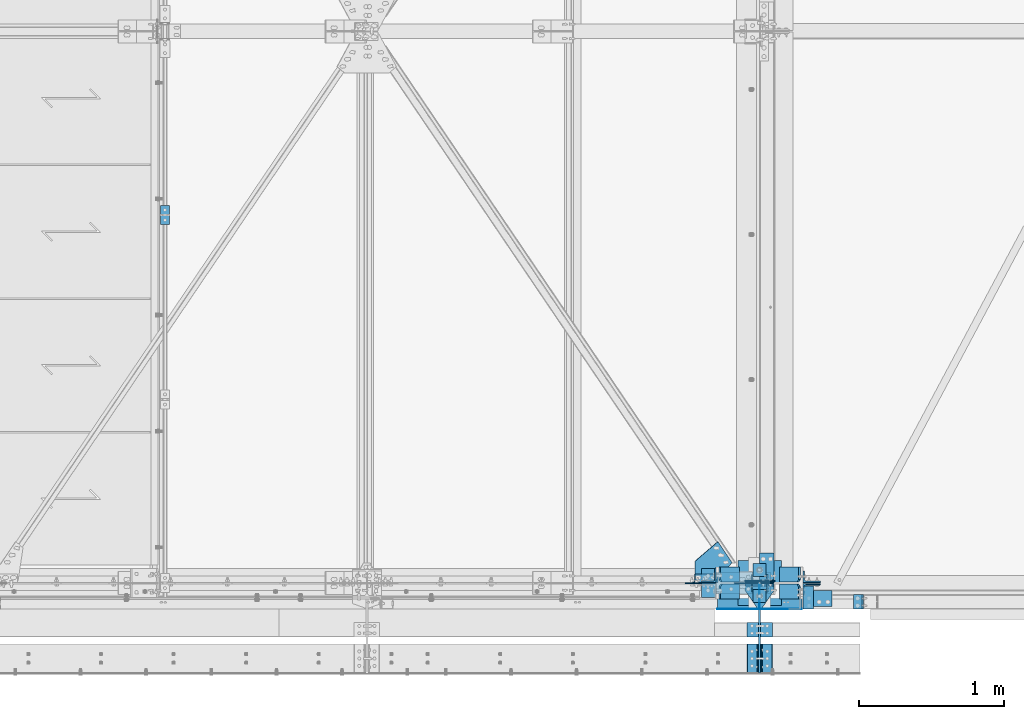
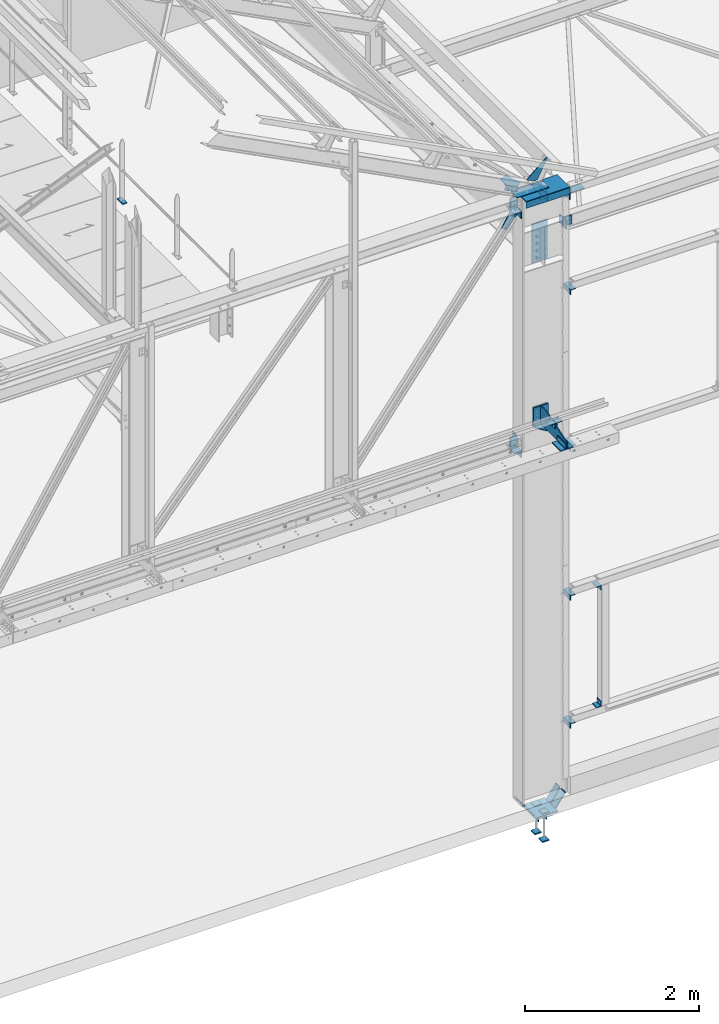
# One storey, part 87 of 362: 35 beams, 7 members, 28 elements without a shape of their own.
"""IFC2X3 building model written with IfcOpenShell, lengths in millimetres."""

from ifc_helpers import new_model, si_unit, frame, origin_with_axes, origin_2d_with_axis, place, context, subcontext, project, spatial, polyline, rectangle, i_section, l_section, outline, extrude, boolean, material, type_object, element, aggregate, save


model = new_model("IFC2X3")

# Units and contexts
model_context = context("Model", 3, precision=1e-05, world=origin_with_axes())
body_context = subcontext(model_context, "Body", "Model", "MODEL_VIEW")
ifc_project = project(units=[si_unit("LENGTHUNIT", "METRE", prefix="MILLI"), si_unit("AREAUNIT", "SQUARE_METRE"), si_unit("VOLUMEUNIT", "CUBIC_METRE"), si_unit("MASSUNIT", "GRAM", prefix="KILO"), si_unit("TIMEUNIT", "SECOND"), si_unit("PLANEANGLEUNIT", "RADIAN"), si_unit("SOLIDANGLEUNIT", "STERADIAN"), si_unit("THERMODYNAMICTEMPERATUREUNIT", "DEGREE_CELSIUS"), si_unit("LUMINOUSINTENSITYUNIT", "LUMEN")], contexts=[model_context])

# Site, building, storey
site_placement = place(None, origin_with_axes())
site = spatial("IfcSite", under=ifc_project, at=site_placement, Name="Undefined", CompositionType="ELEMENT")
building_placement = place(site_placement, origin_with_axes())
building = spatial("IfcBuilding", under=site, at=building_placement, Name="Undefined", CompositionType="ELEMENT")
storey_placement = place(building_placement, origin_with_axes())
storey = spatial("IfcBuildingStorey", under=building, at=storey_placement, Name="Undefined", CompositionType="ELEMENT", Elevation=0.0)

# Assembly, beam
assembly_1_placement = place(storey_placement, origin_with_axes())
assembly_1 = element("IfcElementAssembly", 1, at=assembly_1_placement, inside=storey, Name="MAIN COURANTE", AssemblyPlace="NOTDEFINED", PredefinedType="NOTDEFINED")
ifc_material_1 = material(Name="Undefined/S235-E24")
beam_type_1 = type_object("IfcBeamType", Name="PL10*60", PredefinedType="NOTDEFINED")
beam_1_placement = place(assembly_1_placement, frame((24783.9915997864, 2600.00343957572, 8245.00000732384), z_axis=(-1.0, 0.0, 0.0), x_axis=(0.0, -1.0, 0.0)))
beam_1 = element("IfcBeam", 2, at=beam_1_placement, type_object=beam_type_1, material=ifc_material_1, Name="PLATINE", ObjectType="PL10*60", context=body_context, shape_type="SweptSolid", body=[
    extrude(rectangle(XDim=10.0, YDim=60.0, at=origin_2d_with_axis()), frame((130.0, 0.0, 0.0), z_axis=(-1.0, 0.0, 0.0), x_axis=(0.0, -1.0, 0.0)), (0.0, 0.0, 1.0), 130.0),
])
aggregate(assembly_1, [beam_1])

assembly_2_placement = place(storey_placement, origin_with_axes())
assembly_2 = element("IfcElementAssembly", 3, at=assembly_2_placement, inside=storey, Name="CONTRE PLATINE", AssemblyPlace="NOTDEFINED", PredefinedType="NOTDEFINED")
beam_type_2 = type_object("IfcBeamType", Name="PL10*200", PredefinedType="NOTDEFINED")
beam_2_placement = place(assembly_2_placement, frame((28880.0, 11.0084493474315, 5479.99824538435), z_axis=(1.0, 0.0, 0.0), x_axis=(0.0, 0.0, -1.0)))
beam_2 = element("IfcBeam", 4, at=beam_2_placement, type_object=beam_type_2, material=ifc_material_1, Name="CONTRE PLATINE", ObjectType="PL10*200", context=body_context, shape_type="SweptSolid", body=[
    extrude(rectangle(XDim=10.0, YDim=200.0, at=origin_2d_with_axis()), frame((264.997552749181, 0.0, 0.0), z_axis=(-1.0, 0.0, 0.0), x_axis=(0.0, -1.0, 0.0)), (0.0, 0.0, 1.0), 265.0),
])
aggregate(assembly_2, [beam_2])

assembly_3_placement = place(storey_placement, origin_with_axes())
assembly_3 = element("IfcElementAssembly", 5, at=assembly_3_placement, inside=storey, AssemblyPlace="NOTDEFINED", PredefinedType="NOTDEFINED")
beam_type_3 = type_object("IfcBeamType", Name="L80*8", PredefinedType="NOTDEFINED")
beam_3_placement = place(assembly_3_placement, frame((28927.4921676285, -270.0, 5409.99824538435), z_axis=(0.0, 0.0, -1.0), x_axis=(0.0, -1.0, 0.0)))
beam_3 = element("IfcBeam", 6, at=beam_3_placement, type_object=beam_type_3, material=ifc_material_1, Name="ATTACHE", ObjectType="L80*8", context=body_context, shape_type="SweptSolid", body=[
    extrude(l_section(Depth=80.0, Width=80.0, Thickness=8.0, FilletRadius=10.0, EdgeRadius=5.0, at=origin_2d_with_axis()), frame((99.9999999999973, -1.63709046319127e-11, 7.73070496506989e-12), z_axis=(-1.0, 0.0, 0.0), x_axis=(0.0, -1.0, 0.0)), (0.0, 0.0, 1.0), 100.0),
])
aggregate(assembly_3, [beam_3])

assembly_4_placement = place(storey_placement, origin_with_axes())
assembly_4 = element("IfcElementAssembly", 7, at=assembly_4_placement, inside=storey, AssemblyPlace="NOTDEFINED", PredefinedType="NOTDEFINED")
beam_4_placement = place(assembly_4_placement, frame((28832.5, -370.0, 5409.99824538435), z_axis=(0.0, 0.0, -1.0), x_axis=(0.0, 1.0, 0.0)))
beam_4 = element("IfcBeam", 8, at=beam_4_placement, type_object=beam_type_3, material=ifc_material_1, Name="ATTACHE", ObjectType="L80*8", context=body_context, shape_type="SweptSolid", body=[
    extrude(l_section(Depth=80.0, Width=80.0, Thickness=8.0, FilletRadius=10.0, EdgeRadius=5.0, at=origin_2d_with_axis()), frame((99.9999999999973, -1.63709046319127e-11, 7.73070496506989e-12), z_axis=(-1.0, 0.0, 0.0), x_axis=(0.0, -1.0, 0.0)), (0.0, 0.0, 1.0), 100.0),
])
aggregate(assembly_4, [beam_4])

assembly_5_placement = place(storey_placement, origin_with_axes())
assembly_5 = element("IfcElementAssembly", 9, at=assembly_5_placement, inside=storey, AssemblyPlace="NOTDEFINED", PredefinedType="NOTDEFINED")
beam_5_placement = place(assembly_5_placement, frame((28927.4921676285, -620.0, 5269.99824538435), z_axis=(0.0, 0.0, 1.0), x_axis=(0.0, 1.0, 0.0)))
beam_5 = element("IfcBeam", 10, at=beam_5_placement, type_object=beam_type_3, material=ifc_material_1, Name="ATTACHE", ObjectType="L80*8", context=body_context, shape_type="SweptSolid", body=[
    extrude(l_section(Depth=80.0, Width=80.0, Thickness=8.0, FilletRadius=10.0, EdgeRadius=5.0, at=origin_2d_with_axis()), frame((200.0, 0.0, 0.0), z_axis=(-1.0, 0.0, 0.0), x_axis=(0.0, -1.0, 0.0)), (0.0, 0.0, 1.0), 200.0),
])
aggregate(assembly_5, [beam_5])

assembly_6_placement = place(storey_placement, origin_with_axes())
assembly_6 = element("IfcElementAssembly", 11, at=assembly_6_placement, inside=storey, AssemblyPlace="NOTDEFINED", PredefinedType="NOTDEFINED")
beam_6_placement = place(assembly_6_placement, frame((28832.5, -420.0, 5269.99824538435), z_axis=(0.0, 0.0, 1.0), x_axis=(0.0, -1.0, 0.0)))
beam_6 = element("IfcBeam", 12, at=beam_6_placement, type_object=beam_type_3, material=ifc_material_1, Name="ATTACHE", ObjectType="L80*8", context=body_context, shape_type="SweptSolid", body=[
    extrude(l_section(Depth=80.0, Width=80.0, Thickness=8.0, FilletRadius=10.0, EdgeRadius=5.0, at=origin_2d_with_axis()), frame((200.0, 0.0, 0.0), z_axis=(-1.0, 0.0, 0.0), x_axis=(0.0, -1.0, 0.0)), (0.0, 0.0, 1.0), 200.0),
])
aggregate(assembly_6, [beam_6])

# Assembly, beams
assembly_7_placement = place(storey_placement, origin_with_axes())
assembly_7 = element("IfcElementAssembly", 13, at=assembly_7_placement, inside=storey, Name="CONSOLE", AssemblyPlace="NOTDEFINED", PredefinedType="NOTDEFINED")
beam_type_4 = type_object("IfcBeamType", Name="TOLE10*149", PredefinedType="NOTDEFINED")
beam_7_placement = place(assembly_7_placement, frame((28780.0, -20.9999999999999, 5224.99824534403), z_axis=(0.0, 0.0, 1.0), x_axis=(0.0, -1.0, 0.0)))
beam_7 = element("IfcBeam", 14, at=beam_7_placement, type_object=beam_type_4, material=ifc_material_1, Name="RAIDISSEUR", ObjectType="TOLE10*149", context=body_context, shape_type="SweptSolid", body=[
    extrude(outline(polyline([(0.0, 0.0), (30.0, 0.0), (149.0, 82.5), (149.0, 117.5), (30.0, 200.0), (0.0, 200.0), (0.0, 0.0)])), frame((0.0, 0.0, -5.0), z_axis=(0.0, 0.0, 1.0), x_axis=(1.0, 0.0, 0.0)), (0.0, 0.0, 1.0), 10.0),
])
beam_type_5 = type_object("IfcBeamType", Name="PL15*200", PredefinedType="NOTDEFINED")
beam_8_placement = place(assembly_7_placement, frame((28880.0, -13.4999999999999, 5479.99824538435), z_axis=(1.0, 0.0, 0.0), x_axis=(0.0, 0.0, -1.0)))
beam_8 = element("IfcBeam", 15, at=beam_8_placement, type_object=beam_type_5, material=ifc_material_1, Name="PLATINE", ObjectType="PL15*200", context=body_context, shape_type="SweptSolid", body=[
    extrude(rectangle(XDim=15.0, YDim=200.0, at=origin_2d_with_axis()), frame((264.997552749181, 0.0, 0.0), z_axis=(-1.0, 0.0, 0.0), x_axis=(0.0, -1.0, 0.0)), (0.0, 0.0, 1.0), 265.0),
])
beam_type_6 = type_object("IfcBeamType", Name="TOLE15*250", PredefinedType="NOTDEFINED")
beam_9_placement = place(assembly_7_placement, frame((28880.0, -620.0, 5229.99824538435), z_axis=(-1.0, 0.0, 0.0), x_axis=(0.0, 0.0, 1.0)))
beam_9 = element("IfcBeam", 16, at=beam_9_placement, type_object=beam_type_6, material=ifc_material_1, Name="CONSOLE", ObjectType="TOLE15*250", context=body_context, shape_type="SweptSolid", body=[
    extrude(outline(polyline([(0.0, 0.0), (100.0, 0.0), (250.0, 450.0), (250.0, 599.0), (19.9999999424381, 599.0), (-5.56399857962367e-08, 579.0), (0.0, 0.0)])), frame((0.0, 0.0, -7.5), z_axis=(0.0, 0.0, 1.0), x_axis=(1.0, 0.0, 0.0)), (0.0, 0.0, 1.0), 15.0),
])
aggregate(assembly_7, [beam_7, beam_8, beam_9])

# Assembly, beam
assembly_8_placement = place(storey_placement, origin_with_axes())
assembly_8 = element("IfcElementAssembly", 17, at=assembly_8_placement, inside=storey, AssemblyPlace="NOTDEFINED", PredefinedType="NOTDEFINED")
beam_type_7 = type_object("IfcBeamType", Name="L70*7", PredefinedType="NOTDEFINED")
beam_10_placement = place(assembly_8_placement, frame((29215.0012714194, -20.0000002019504, 964.996098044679), z_axis=(0.0, 0.0, -1.0), x_axis=(0.0, -1.0, 0.0)))
beam_10 = element("IfcBeam", 18, at=beam_10_placement, type_object=beam_type_7, material=ifc_material_1, Name="ATTACHE", ObjectType="L70*7", context=body_context, shape_type="SweptSolid", body=[
    extrude(l_section(Depth=70.0, Width=70.0, Thickness=7.0, FilletRadius=9.0, EdgeRadius=4.5, at=origin_2d_with_axis()), frame((160.000008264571, 0.0, 0.0), z_axis=(-1.0, 0.0, 0.0), x_axis=(0.0, -1.0, 0.0)), (0.0, 0.0, 1.0), 160.0),
])
aggregate(assembly_8, [beam_10])

assembly_9_placement = place(storey_placement, origin_with_axes())
assembly_9 = element("IfcElementAssembly", 19, at=assembly_9_placement, inside=storey, AssemblyPlace="NOTDEFINED", PredefinedType="NOTDEFINED")
beam_11_placement = place(assembly_9_placement, frame((29215.0012287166, -20.0000002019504, 7064.99609804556), z_axis=(0.0, 0.0, -1.0), x_axis=(0.0, -1.0, 0.0)))
beam_11 = element("IfcBeam", 20, at=beam_11_placement, type_object=beam_type_7, material=ifc_material_1, Name="ATTACHE", ObjectType="L70*7", context=body_context, shape_type="SweptSolid", body=[
    extrude(l_section(Depth=70.0, Width=70.0, Thickness=7.0, FilletRadius=9.0, EdgeRadius=4.5, at=origin_2d_with_axis()), frame((160.000008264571, 0.0, 0.0), z_axis=(-1.0, 0.0, 0.0), x_axis=(0.0, -1.0, 0.0)), (0.0, 0.0, 1.0), 160.0),
])
aggregate(assembly_9, [beam_11])

assembly_10_placement = place(storey_placement, origin_with_axes())
assembly_10 = element("IfcElementAssembly", 21, at=assembly_10_placement, inside=storey, AssemblyPlace="NOTDEFINED", PredefinedType="NOTDEFINED")
beam_12_placement = place(assembly_10_placement, frame((29215.0012588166, -20.0000002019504, 2764.99609804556), z_axis=(0.0, 0.0, -1.0), x_axis=(0.0, -1.0, 0.0)))
beam_12 = element("IfcBeam", 22, at=beam_12_placement, type_object=beam_type_7, material=ifc_material_1, Name="ATTACHE", ObjectType="L70*7", context=body_context, shape_type="SweptSolid", body=[
    extrude(l_section(Depth=70.0, Width=70.0, Thickness=7.0, FilletRadius=9.0, EdgeRadius=4.5, at=origin_2d_with_axis()), frame((160.000008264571, 0.0, 0.0), z_axis=(-1.0, 0.0, 0.0), x_axis=(0.0, -1.0, 0.0)), (0.0, 0.0, 1.0), 160.0),
])
aggregate(assembly_10, [beam_12])

assembly_11_placement = place(storey_placement, origin_with_axes())
assembly_11 = element("IfcElementAssembly", 23, at=assembly_11_placement, inside=storey, AssemblyPlace="NOTDEFINED", PredefinedType="NOTDEFINED")
beam_13_placement = place(assembly_11_placement, frame((29215.0012588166, -20.0000002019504, 4864.99609804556), z_axis=(0.0, 0.0, -1.0), x_axis=(0.0, -1.0, 0.0)))
beam_13 = element("IfcBeam", 24, at=beam_13_placement, type_object=beam_type_7, material=ifc_material_1, Name="ATTACHE", ObjectType="L70*7", context=body_context, shape_type="SweptSolid", body=[
    extrude(l_section(Depth=70.0, Width=70.0, Thickness=7.0, FilletRadius=9.0, EdgeRadius=4.5, at=origin_2d_with_axis()), frame((160.000008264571, 0.0, 0.0), z_axis=(-1.0, 0.0, 0.0), x_axis=(0.0, -1.0, 0.0)), (0.0, 0.0, 1.0), 160.0),
])
aggregate(assembly_11, [beam_13])

assembly_12_placement = place(storey_placement, origin_with_axes())
assembly_12 = element("IfcElementAssembly", 25, at=assembly_12_placement, inside=storey, AssemblyPlace="NOTDEFINED", PredefinedType="NOTDEFINED")
beam_14_placement = place(assembly_12_placement, frame((29559.999999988, -80.0000086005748, 1135.0), z_axis=(0.0, 0.0, 1.0), x_axis=(0.0, -1.0, 0.0)))
beam_14 = element("IfcBeam", 26, at=beam_14_placement, type_object=beam_type_7, material=ifc_material_1, Name="ATTACHE", ObjectType="L70*7", context=body_context, shape_type="SweptSolid", body=[
    extrude(l_section(Depth=70.0, Width=70.0, Thickness=7.0, FilletRadius=9.0, EdgeRadius=4.5, at=origin_2d_with_axis()), frame((99.9999999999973, -1.63709046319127e-11, 7.73070496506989e-12), z_axis=(-1.0, 0.0, 0.0), x_axis=(0.0, -1.0, 0.0)), (0.0, 0.0, 1.0), 100.0),
])
aggregate(assembly_12, [beam_14])

assembly_13_placement = place(storey_placement, origin_with_axes())
assembly_13 = element("IfcElementAssembly", 27, at=assembly_13_placement, inside=storey, AssemblyPlace="NOTDEFINED", PredefinedType="NOTDEFINED")
beam_15_placement = place(assembly_13_placement, frame((29560.000000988, -180.000008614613, 2765.0), z_axis=(0.0, 0.0, -1.0), x_axis=(0.0, 1.0, 0.0)))
beam_15 = element("IfcBeam", 28, at=beam_15_placement, type_object=beam_type_7, material=ifc_material_1, Name="ATTACHE", ObjectType="L70*7", context=body_context, shape_type="SweptSolid", body=[
    extrude(l_section(Depth=70.0, Width=70.0, Thickness=7.0, FilletRadius=9.0, EdgeRadius=4.5, at=origin_2d_with_axis()), frame((99.9999999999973, -1.63709046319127e-11, 7.73070496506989e-12), z_axis=(-1.0, 0.0, 0.0), x_axis=(0.0, -1.0, 0.0)), (0.0, 0.0, 1.0), 100.0),
])
aggregate(assembly_13, [beam_15])

# Assembly, member
assembly_14_placement = place(storey_placement, origin_with_axes())
assembly_14 = element("IfcElementAssembly", 29, at=assembly_14_placement, inside=storey, AssemblyPlace="NOTDEFINED", PredefinedType="NOTDEFINED")
member_type_1 = type_object("IfcMemberType", Name="L60*6", PredefinedType="NOTDEFINED")
member_1_placement = place(assembly_14_placement, frame((28579.3252498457, 33.0001377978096, 8604.45371099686), z_axis=(0.0, 1.0, 0.0), x_axis=(-0.887870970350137, -2.80000019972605e-08, 0.460092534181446)))
member_1 = element("IfcMember", 30, at=member_1_placement, type_object=member_type_1, material=ifc_material_1, Name="ATTACHE", ObjectType="L60*6", context=body_context, shape_type="SweptSolid", body=[
    extrude(l_section(Depth=60.0, Width=60.0, Thickness=6.0, FilletRadius=8.0, EdgeRadius=4.0, at=origin_2d_with_axis()), frame((180.0, 0.0, 0.0), z_axis=(-1.0, 0.0, 0.0), x_axis=(0.0, -1.0, 0.0)), (0.0, 0.0, 1.0), 180.0),
])
aggregate(assembly_14, [member_1])

# Assembly, beam
assembly_15_placement = place(storey_placement, origin_with_axes())
assembly_15 = element("IfcElementAssembly", 31, at=assembly_15_placement, inside=storey, Name="PANNE SHED", AssemblyPlace="NOTDEFINED", PredefinedType="NOTDEFINED")
beam_type_8 = type_object("IfcBeamType", Name="TOLE8*140", PredefinedType="NOTDEFINED")
beam_16_placement = place(assembly_15_placement, frame((28714.4895719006, 0.0, 8721.3758937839), z_axis=(0.0, -1.0, 0.0), x_axis=(-0.460093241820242, 0.0, -0.887870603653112)))
beam_16 = element("IfcBeam", 32, at=beam_16_placement, type_object=beam_type_8, material=ifc_material_1, Name="RAIDISSEUR", ObjectType="TOLE8*140", context=body_context, shape_type="SweptSolid", body=[
    extrude(outline(polyline([(0.0, 0.0), (19.9999999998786, -3.63797880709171e-12), (20.0000000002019, 109.999999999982), (-9.99999999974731, 139.99998998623), (-300.0000000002, 139.999893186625), (-300.000000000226, 119.999893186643), (0.0, 0.0)])), frame((0.0, 0.0, -4.0), z_axis=(0.0, 0.0, 1.0), x_axis=(1.0, 0.0, 0.0)), (0.0, 0.0, 1.0), 8.0),
])
aggregate(assembly_15, [beam_16])

assembly_16_placement = place(storey_placement, origin_with_axes())
assembly_16 = element("IfcElementAssembly", 33, at=assembly_16_placement, inside=storey, AssemblyPlace="NOTDEFINED", PredefinedType="NOTDEFINED")
beam_type_9 = type_object("IfcBeamType", Name="L200*100*10", PredefinedType="NOTDEFINED")
beam_17_placement = place(assembly_16_placement, frame((29280.0031155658, -159.989858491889, 8399.99872306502), z_axis=(0.999999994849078, 0.000101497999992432, 0.0), x_axis=(-0.000101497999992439, 0.999999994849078, 0.0)))
beam_17 = element("IfcBeam", 34, at=beam_17_placement, type_object=beam_type_9, material=ifc_material_1, Name="ATTACHE", ObjectType="L200*100*10", context=body_context, shape_type="SweptSolid", body=[
    extrude(l_section(Depth=200.0, Width=100.0, Thickness=10.0, FilletRadius=15.0, EdgeRadius=7.5, at=origin_2d_with_axis()), frame((109.999999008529, 1.81898940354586e-12, 0.0), z_axis=(-1.0, 0.0, 0.0), x_axis=(0.0, -1.0, 0.0)), (0.0, 0.0, 1.0), 110.0),
])
aggregate(assembly_16, [beam_17])

assembly_17_placement = place(storey_placement, origin_with_axes())
assembly_17 = element("IfcElementAssembly", 35, at=assembly_17_placement, inside=storey, AssemblyPlace="NOTDEFINED", PredefinedType="NOTDEFINED")
beam_18_placement = place(assembly_17_placement, frame((28980.0, 106.0, 8400.0), z_axis=(0.0, 1.0, 0.0), x_axis=(-1.0, 0.0, 0.0)))
beam_18 = element("IfcBeam", 36, at=beam_18_placement, type_object=beam_type_9, material=ifc_material_1, Name="ATTACHE", ObjectType="L200*100*10", context=body_context, shape_type="SweptSolid", body=[
    extrude(l_section(Depth=200.0, Width=100.0, Thickness=10.0, FilletRadius=15.0, EdgeRadius=7.5, at=origin_2d_with_axis()), frame((99.9999999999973, -1.63709046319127e-11, 7.73070496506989e-12), z_axis=(-1.0, 0.0, 0.0), x_axis=(0.0, -1.0, 0.0)), (0.0, 0.0, 1.0), 100.0),
])
aggregate(assembly_17, [beam_18])

assembly_18_placement = place(storey_placement, origin_with_axes())
assembly_18 = element("IfcElementAssembly", 37, at=assembly_18_placement, inside=storey, Name="TRAVERSE", AssemblyPlace="NOTDEFINED", PredefinedType="NOTDEFINED")
beam_type_10 = type_object("IfcBeamType", Name="PL15*210", PredefinedType="NOTDEFINED")
beam_19_placement = place(assembly_18_placement, frame((28880.0, 13.5, 8049.34004841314), z_axis=(-1.0, 0.0, 0.0), x_axis=(0.0, 0.0, -1.0)))
beam_19 = element("IfcBeam", 38, at=beam_19_placement, type_object=beam_type_10, material=ifc_material_1, Name="PLATINE", ObjectType="PL15*210", context=body_context, shape_type="SweptSolid", body=[
    extrude(rectangle(XDim=15.0, YDim=210.0, at=origin_2d_with_axis()), frame((550.0, 0.0, 0.0), z_axis=(-1.0, 0.0, 0.0), x_axis=(0.0, -1.0, 0.0)), (0.0, 0.0, 1.0), 550.0),
])
aggregate(assembly_18, [beam_19])

assembly_19_placement = place(storey_placement, origin_with_axes())
assembly_19 = element("IfcElementAssembly", 39, at=assembly_19_placement, inside=storey, AssemblyPlace="NOTDEFINED", PredefinedType="NOTDEFINED")
beam_type_11 = type_object("IfcBeamType", Name="TOLE6*219", PredefinedType="NOTDEFINED")
beam_20_placement = place(assembly_19_placement, frame((28591.4170141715, 285.322059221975, 8635.3552464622), z_axis=(-0.460093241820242, 0.0, -0.887870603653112), x_axis=(0.538249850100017, -0.795292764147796, -0.278920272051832)))
beam_20 = element("IfcBeam", 40, at=beam_20_placement, type_object=beam_type_11, material=ifc_material_1, Name="GOUSSET", ObjectType="TOLE6*219", context=body_context, shape_type="SweptSolid", body=[
    extrude(outline(polyline([(0.0, 0.0), (180.000000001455, -5.27506927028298e-10), (218.686340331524, 162.319595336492), (109.565696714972, 305.472290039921), (-9.36748074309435e-06, 221.953918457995), (0.0, 0.0)])), frame((0.0, 0.0, -3.0), z_axis=(0.0, 0.0, 1.0), x_axis=(1.0, 0.0, 0.0)), (0.0, 0.0, 1.0), 6.0),
])
aggregate(assembly_19, [beam_20])

assembly_20_placement = place(storey_placement, origin_with_axes())
assembly_20 = element("IfcElementAssembly", 41, at=assembly_20_placement, inside=storey, Name="TRAVERSE SHED", AssemblyPlace="NOTDEFINED", PredefinedType="NOTDEFINED")
beam_type_12 = type_object("IfcBeamType", Name="PL10*420", PredefinedType="NOTDEFINED")
beam_21_placement = place(assembly_20_placement, frame((28743.3573802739, 74.9996843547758, 8554.99999999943), z_axis=(-1.0, 0.0, 0.0), x_axis=(0.0, -1.0, 0.0)))
beam_21 = element("IfcBeam", 42, at=beam_21_placement, type_object=beam_type_12, material=ifc_material_1, Name="PLATINE", ObjectType="PL10*420", context=body_context, shape_type="SweptSolid", body=[
    extrude(rectangle(XDim=10.0, YDim=420.0, at=origin_2d_with_axis()), frame((150.0, 0.0, 0.0), z_axis=(-1.0, 0.0, 0.0), x_axis=(0.0, -1.0, 0.0)), (0.0, 0.0, 1.0), 150.0),
])
aggregate(assembly_20, [beam_21])

# Assembly, member
assembly_21_placement = place(storey_placement, origin_with_axes())
assembly_21 = element("IfcElementAssembly", 43, at=assembly_21_placement, inside=storey, AssemblyPlace="NOTDEFINED", PredefinedType="NOTDEFINED")
member_type_2 = type_object("IfcMemberType", Name="L120*80*10", PredefinedType="NOTDEFINED")
member_2_placement = place(assembly_21_placement, frame((29240.0021442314, 41.0926894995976, 7888.6330271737), z_axis=(1.0, 0.0, 0.0), x_axis=(7.58071938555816e-11, 0.0314107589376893, 0.999506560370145)))
member_2 = element("IfcMember", 44, at=member_2_placement, type_object=member_type_2, material=ifc_material_1, Name="ATTACHE", ObjectType="L120*80*10", context=body_context, shape_type="SweptSolid", body=[
    extrude(l_section(Depth=120.0, Width=80.0, Thickness=10.0, FilletRadius=11.0, EdgeRadius=5.5, at=origin_2d_with_axis()), frame((120.0, 0.0, 0.0), z_axis=(-1.0, 0.0, 0.0), x_axis=(0.0, -1.0, 0.0)), (0.0, 0.0, 1.0), 120.0),
])
aggregate(assembly_21, [member_2])

assembly_22_placement = place(storey_placement, origin_with_axes())
assembly_22 = element("IfcElementAssembly", 45, at=assembly_22_placement, inside=storey, AssemblyPlace="NOTDEFINED", PredefinedType="NOTDEFINED")
member_3_placement = place(assembly_22_placement, frame((29240.0021442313, -41.096389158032, 8011.27520452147), z_axis=(1.0, 0.0, 0.0), x_axis=(-1.05403257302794e-09, -0.0314112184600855, -0.999506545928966)))
member_3 = element("IfcMember", 46, at=member_3_placement, type_object=member_type_2, material=ifc_material_1, Name="ATTACHE", ObjectType="L120*80*10", context=body_context, shape_type="SweptSolid", body=[
    extrude(l_section(Depth=120.0, Width=80.0, Thickness=10.0, FilletRadius=11.0, EdgeRadius=5.5, at=origin_2d_with_axis()), frame((120.0, 0.0, 0.0), z_axis=(-1.0, 0.0, 0.0), x_axis=(0.0, -1.0, 0.0)), (0.0, 0.0, 1.0), 120.0),
])
aggregate(assembly_22, [member_3])

# Assembly, beam
assembly_23_placement = place(storey_placement, origin_with_axes())
assembly_23 = element("IfcElementAssembly", 47, at=assembly_23_placement, inside=storey, AssemblyPlace="NOTDEFINED", PredefinedType="NOTDEFINED")
beam_type_13 = type_object("IfcBeamType", Name="L100*10", PredefinedType="NOTDEFINED")
beam_22_placement = place(assembly_23_placement, frame((28529.9999062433, 53.500000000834, 8520.00002208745), z_axis=(-1.0, 0.0, 0.0), x_axis=(0.0, 0.0, -1.0)))
beam_22 = element("IfcBeam", 48, at=beam_22_placement, type_object=beam_type_13, material=ifc_material_1, Name="ATTACHE", ObjectType="L100*10", context=body_context, shape_type="SweptSolid", body=[
    extrude(l_section(Depth=100.0, Width=100.0, Thickness=10.0, FilletRadius=12.0, EdgeRadius=6.0, at=origin_2d_with_axis()), frame((130.0, 0.0, 0.0), z_axis=(-1.0, 0.0, 0.0), x_axis=(0.0, -1.0, 0.0)), (0.0, 0.0, 1.0), 130.0),
])
aggregate(assembly_23, [beam_22])

assembly_24_placement = place(storey_placement, origin_with_axes())
assembly_24 = element("IfcElementAssembly", 49, at=assembly_24_placement, inside=storey, AssemblyPlace="NOTDEFINED", PredefinedType="NOTDEFINED")
beam_23_placement = place(assembly_24_placement, frame((28529.9960922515, -99.9992396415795, 8309.99916813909), z_axis=(0.0, 0.0, -1.0), x_axis=(1.5290000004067e-05, 0.999999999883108, 0.0)))
beam_23 = element("IfcBeam", 50, at=beam_23_placement, type_object=beam_type_13, material=ifc_material_1, Name="ATTACHE", ObjectType="L100*10", context=body_context, shape_type="SweptSolid", body=[
    extrude(l_section(Depth=100.0, Width=100.0, Thickness=10.0, FilletRadius=12.0, EdgeRadius=6.0, at=origin_2d_with_axis()), frame((200.0, 0.0, 0.0), z_axis=(-1.0, 0.0, 0.0), x_axis=(0.0, -1.0, 0.0)), (0.0, 0.0, 1.0), 200.0),
])

assembly_25_placement = place(storey_placement, origin_with_axes())
assembly_25 = element("IfcElementAssembly", 51, at=assembly_25_placement, inside=storey, AssemblyPlace="NOTDEFINED", PredefinedType="NOTDEFINED")
beam_24_placement = place(assembly_25_placement, frame((28529.9999062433, 53.500000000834, 5160.00085394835), z_axis=(-1.0, 0.0, 0.0), x_axis=(0.0, 0.0, -1.0)))
beam_24 = element("IfcBeam", 52, at=beam_24_placement, type_object=beam_type_13, material=ifc_material_1, Name="ATTACHE", ObjectType="L100*10", context=body_context, shape_type="SweptSolid", body=[
    extrude(l_section(Depth=100.0, Width=100.0, Thickness=10.0, FilletRadius=12.0, EdgeRadius=6.0, at=origin_2d_with_axis()), frame((130.0, 0.0, 0.0), z_axis=(-1.0, 0.0, 0.0), x_axis=(0.0, -1.0, 0.0)), (0.0, 0.0, 1.0), 130.0),
])
aggregate(assembly_25, [beam_24])

assembly_26_placement = place(storey_placement, origin_with_axes())
assembly_26 = element("IfcElementAssembly", 53, at=assembly_26_placement, inside=storey, AssemblyPlace="NOTDEFINED", PredefinedType="NOTDEFINED")
beam_25_placement = place(assembly_26_placement, frame((28529.9960922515, -99.9992396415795, 4950.0), z_axis=(0.0, 0.0, -1.0), x_axis=(1.5290000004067e-05, 0.999999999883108, 0.0)))
beam_25 = element("IfcBeam", 54, at=beam_25_placement, type_object=beam_type_13, material=ifc_material_1, Name="ATTACHE", ObjectType="L100*10", context=body_context, shape_type="SweptSolid", body=[
    extrude(l_section(Depth=100.0, Width=100.0, Thickness=10.0, FilletRadius=12.0, EdgeRadius=6.0, at=origin_2d_with_axis()), frame((200.0, 0.0, 0.0), z_axis=(-1.0, 0.0, 0.0), x_axis=(0.0, -1.0, 0.0)), (0.0, 0.0, 1.0), 200.0),
])
aggregate(assembly_26, [beam_25])

# Beam
beam_type_14 = type_object("IfcBeamType", Name="TOLE8*122", PredefinedType="NOTDEFINED")
beam_26_placement = place(assembly_24_placement, frame((28569.9960922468, 0.0, 8259.99916813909), z_axis=(0.0, -1.0, 0.0), x_axis=(0.0, 0.0, 1.0)))
beam_26 = element("IfcBeam", 55, at=beam_26_placement, type_object=beam_type_14, material=ifc_material_1, Name="GOUSSET", ObjectType="TOLE8*122", context=body_context, shape_type="SweptSolid", body=[
    extrude(outline(polyline([(0.0, 0.0), (70.0, 0.0), (90.0, 20.0), (90.0, 90.0), (-114.824501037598, 203.191070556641), (-163.177642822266, 139.457458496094), (0.0, 0.0)])), frame((0.0, 0.0, -4.0), z_axis=(0.0, 0.0, 1.0), x_axis=(1.0, 0.0, 0.0)), (0.0, 0.0, 1.0), 8.0),
])

aggregate(assembly_24, [beam_26, beam_23])

# Assembly, beams
assembly_27_placement = place(storey_placement, origin_with_axes())
assembly_27 = element("IfcElementAssembly", 56, at=assembly_27_placement, inside=storey, Name="PRESCELLEMENT PS24", AssemblyPlace="NOTDEFINED", PredefinedType="NOTDEFINED")
beam_type_15 = type_object("IfcBeamType", Name="PL15*90", PredefinedType="NOTDEFINED")
beam_27_placement = place(assembly_27_placement, frame((28925.0, -45.0028495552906, -177.5), z_axis=(0.0, 0.0, 1.0), x_axis=(-1.0, 0.0, 0.0)))
beam_27 = element("IfcBeam", 57, at=beam_27_placement, type_object=beam_type_15, material=ifc_material_1, Name="PLAQUETTE", ObjectType="PL15*90", context=body_context, shape_type="SweptSolid", body=[
    extrude(outline(polyline([(0.0, 0.0), (90.0, 0.0), (90.0, 90.0), (0.0, 90.0), (0.0, 0.0)])), frame((0.0, 0.0, -7.5), z_axis=(0.0, 0.0, 1.0), x_axis=(1.0, 0.0, 0.0)), (0.0, 0.0, 1.0), 15.0),
])
beam_28_placement = place(assembly_27_placement, frame((28925.0, 134.997150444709, -177.5), z_axis=(0.0, 0.0, 1.0), x_axis=(-1.0, 0.0, 0.0)))
beam_28 = element("IfcBeam", 58, at=beam_28_placement, type_object=beam_type_15, material=ifc_material_1, Name="PLAQUETTE", ObjectType="PL15*90", context=body_context, shape_type="SweptSolid", body=[
    extrude(outline(polyline([(0.0, 0.0), (90.0, 0.0), (90.0, 90.0), (0.0, 90.0), (0.0, 0.0)])), frame((0.0, 0.0, -7.5), z_axis=(0.0, 0.0, 1.0), x_axis=(1.0, 0.0, 0.0)), (0.0, 0.0, 1.0), 15.0),
])
beam_29_placement = place(assembly_27_placement, frame((28925.0, -45.0028495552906, -572.5), z_axis=(0.0, 0.0, 1.0), x_axis=(-1.0, 0.0, 0.0)))
beam_29 = element("IfcBeam", 59, at=beam_29_placement, type_object=beam_type_15, material=ifc_material_1, Name="PLAQUETTE", ObjectType="PL15*90", context=body_context, shape_type="SweptSolid", body=[
    extrude(outline(polyline([(0.0, 0.0), (90.0, 0.0), (90.0, 90.0), (0.0, 90.0), (0.0, 0.0)])), frame((0.0, 0.0, -7.5), z_axis=(0.0, 0.0, 1.0), x_axis=(1.0, 0.0, 0.0)), (0.0, 0.0, 1.0), 15.0),
])
beam_30_placement = place(assembly_27_placement, frame((28925.0, 134.997150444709, -572.5), z_axis=(0.0, 0.0, 1.0), x_axis=(-1.0, 0.0, 0.0)))
beam_30 = element("IfcBeam", 60, at=beam_30_placement, type_object=beam_type_15, material=ifc_material_1, Name="PLAQUETTE", ObjectType="PL15*90", context=body_context, shape_type="SweptSolid", body=[
    extrude(outline(polyline([(0.0, 0.0), (90.0, 0.0), (90.0, 90.0), (0.0, 90.0), (0.0, 0.0)])), frame((0.0, 0.0, -7.5), z_axis=(0.0, 0.0, 1.0), x_axis=(1.0, 0.0, 0.0)), (0.0, 0.0, 1.0), 15.0),
])

assembly_28_placement = place(storey_placement, origin_with_axes())
assembly_28 = element("IfcElementAssembly", 61, at=assembly_28_placement, inside=storey, Name="POTEAU", AssemblyPlace="NOTDEFINED", PredefinedType="NOTDEFINED")
beam_type_16 = type_object("IfcBeamType", Name="PL5*90", PredefinedType="NOTDEFINED")
beam_31_placement = place(assembly_28_placement, frame((28880.0, -6.5, 8450.0), z_axis=(-1.0, 0.0, 0.0), x_axis=(0.0, -1.0, 0.0)))
beam_31 = element("IfcBeam", 62, at=beam_31_placement, type_object=beam_type_16, material=ifc_material_1, Name="RAIDISSEUR", ObjectType="PL5*90", context=body_context, shape_type="SweptSolid", body=[
    extrude(outline(polyline([(0.0, 0.0), (168.0, 0.0), (168.0, 70.0), (148.0, 90.0), (20.000000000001, 90.0), (-7.90371359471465e-08, 70.000007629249), (0.0, 0.0)])), frame((0.0, 0.0, -2.5), z_axis=(0.0, 0.0, 1.0), x_axis=(1.0, 0.0, 0.0)), (0.0, 0.0, 1.0), 5.0),
])
beam_type_17 = type_object("IfcBeamType", Name="PL5*581", PredefinedType="NOTDEFINED")
beam_32_placement = place(assembly_28_placement, frame((28879.9999999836, -177.5, 8540.00000000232), z_axis=(1.0, 0.0, 0.0), x_axis=(0.0, 0.0, -1.0)))
beam_32 = element("IfcBeam", 63, at=beam_32_placement, type_object=beam_type_17, material=ifc_material_1, Name="PLATINE", ObjectType="PL5*581", context=body_context, shape_type="SweptSolid", body=[
    extrude(rectangle(XDim=5.0, YDim=581.0, at=origin_2d_with_axis()), frame((90.0, 0.0, 0.0), z_axis=(-1.0, 0.0, 0.0), x_axis=(0.0, -1.0, 0.0)), (0.0, 0.0, 1.0), 90.0),
])
beam_type_18 = type_object("IfcBeamType", Name="PL10*290", PredefinedType="NOTDEFINED")
beam_33_placement = place(assembly_28_placement, frame((28589.5, -35.0, 8545.0), z_axis=(0.0, 1.0, 0.0), x_axis=(1.0, 0.0, 0.0)))
beam_33 = element("IfcBeam", 64, at=beam_33_placement, type_object=beam_type_18, material=ifc_material_1, Name="PLATINE", ObjectType="PL10*290", context=body_context, shape_type="SweptSolid", body=[
    extrude(rectangle(XDim=10.0, YDim=290.0, at=origin_2d_with_axis()), frame((581.0, 0.0, 0.0), z_axis=(-1.0, 0.0, 0.0), x_axis=(0.0, -1.0, 0.0)), (0.0, 0.0, 1.0), 581.0),
])

# Beam
ifc_material_2 = material(Name="Undefined/S275-E28")
beam_type_19 = type_object("IfcBeamType", Name="HEA120", PredefinedType="NOTDEFINED")
beam_34_placement = place(assembly_27_placement, frame((28879.99999991, 0.0, -210.0), z_axis=(-1.0, 0.0, 0.0), x_axis=(0.0, 0.0, -1.0)))
beam_34 = element("IfcBeam", 65, at=beam_34_placement, type_object=beam_type_19, material=ifc_material_2, Name="BECHE", ObjectType="HEA120", context=body_context, shape_type="SweptSolid", body=[
    extrude(i_section(OverallWidth=120.0, OverallDepth=114.0, WebThickness=5.0, FlangeThickness=8.0, FilletRadius=12.0, at=origin_2d_with_axis()), frame((120.0, 0.0, 0.0), z_axis=(-1.0, 0.0, 0.0), x_axis=(0.0, -1.0, 0.0)), (0.0, 0.0, 1.0), 120.0),
])

aggregate(assembly_27, [beam_34, beam_27, beam_28, beam_29, beam_30])

# Member
member_type_3 = type_object("IfcMemberType", Name="PL15*103.5", PredefinedType="NOTDEFINED")
member_4_placement = place(assembly_28_placement, frame((29154.8763336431, 58.25, 4.33415056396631), z_axis=(0.0, 1.0, 0.0), x_axis=(-0.577886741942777, 0.0, -0.816116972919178)))
member_4 = element("IfcMember", 66, at=member_4_placement, type_object=member_type_3, material=ifc_material_1, Name="PLATINE", ObjectType="PL15*103.5", context=body_context, shape_type="CSG", body=[
    boolean("DIFFERENCE", extrude(rectangle(XDim=15.0, YDim=103.5, at=origin_2d_with_axis()), frame((226.683191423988, -3.77503347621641e-14, 0.0), z_axis=(-1.0, 0.0, 0.0), x_axis=(0.0, -1.0, 0.0)), (0.0, 0.0, 1.0), 226.68), extrude(outline(polyline([(0.0, 0.0), (19.9999999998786, -3.63797880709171e-12), (19.9999999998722, 19.9999999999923), (0.0, 0.0)])), frame((20.0000000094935, -10.4999999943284, -51.75), z_axis=(0.0, 1.0, 0.0), x_axis=(-1.0, 0.0, 0.0)), (0.0, 0.0, 1.0), 21.0)),
])

member_5_placement = place(assembly_28_placement, frame((29154.8763336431, -58.25, 4.33415056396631), z_axis=(0.0, 1.0, 0.0), x_axis=(-0.577886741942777, 0.0, -0.816116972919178)))
member_5 = element("IfcMember", 67, at=member_5_placement, type_object=member_type_3, material=ifc_material_1, Name="PLATINE", ObjectType="PL15*103.5", context=body_context, shape_type="CSG", body=[
    boolean("DIFFERENCE", extrude(rectangle(XDim=15.0, YDim=103.5, at=origin_2d_with_axis()), frame((226.683191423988, -3.77503347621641e-14, 0.0), z_axis=(-1.0, 0.0, 0.0), x_axis=(0.0, -1.0, 0.0)), (0.0, 0.0, 1.0), 226.68), extrude(outline(polyline([(0.0, 0.0), (28.2842712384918, -5.68070390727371e-09), (14.1421356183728, 14.1421356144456), (0.0, 0.0)])), frame((19.9999999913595, -10.4999999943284, 51.7500000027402), z_axis=(0.0, 1.0, 0.0), x_axis=(-0.707106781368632, 1.08068498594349e-10, -0.707106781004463)), (0.0, 0.0, 1.0), 21.0)),
])

member_6_placement = place(assembly_28_placement, frame((28605.1180011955, 58.25, 4.33427348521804), z_axis=(0.0, 1.0, 0.0), x_axis=(0.57790313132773, 0.0, -0.816105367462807)))
member_6 = element("IfcMember", 68, at=member_6_placement, type_object=member_type_3, material=ifc_material_1, Name="PLATINE", ObjectType="PL15*103.5", context=body_context, shape_type="CSG", body=[
    boolean("DIFFERENCE", extrude(rectangle(XDim=15.0, YDim=103.5, at=origin_2d_with_axis()), frame((226.686414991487, 0.0, 0.0), z_axis=(-1.0, 0.0, 0.0), x_axis=(0.0, -1.0, 0.0)), (0.0, 0.0, 1.0), 226.69), extrude(outline(polyline([(0.0, 0.0), (19.9999999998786, -3.63797880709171e-12), (19.9999999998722, 19.9999999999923), (0.0, 0.0)])), frame((20.0000000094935, -10.4999999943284, -51.75), z_axis=(0.0, 1.0, 0.0), x_axis=(-1.0, 0.0, 0.0)), (0.0, 0.0, 1.0), 21.0)),
])

member_7_placement = place(assembly_28_placement, frame((28605.1180011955, -58.25, 4.33427348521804), z_axis=(0.0, 1.0, 0.0), x_axis=(0.57790313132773, 0.0, -0.816105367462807)))
member_7 = element("IfcMember", 69, at=member_7_placement, type_object=member_type_3, material=ifc_material_1, Name="PLATINE", ObjectType="PL15*103.5", context=body_context, shape_type="CSG", body=[
    boolean("DIFFERENCE", extrude(rectangle(XDim=15.0, YDim=103.5, at=origin_2d_with_axis()), frame((226.686414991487, 0.0, 0.0), z_axis=(-1.0, 0.0, 0.0), x_axis=(0.0, -1.0, 0.0)), (0.0, 0.0, 1.0), 226.69), extrude(outline(polyline([(0.0, 0.0), (28.2842712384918, -5.68070390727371e-09), (14.1421356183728, 14.1421356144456), (0.0, 0.0)])), frame((19.9999999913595, -10.4999999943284, 51.7500000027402), z_axis=(0.0, 1.0, 0.0), x_axis=(-0.707106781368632, 1.08068498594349e-10, -0.707106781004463)), (0.0, 0.0, 1.0), 21.0)),
])

# Beam
beam_type_20 = type_object("IfcBeamType", Name="PL15*300", PredefinedType="NOTDEFINED")
beam_35_placement = place(assembly_28_placement, frame((28880.0, 154.997150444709, -192.5), z_axis=(1.0, 0.0, 0.0), x_axis=(0.0, -1.0, 0.0)))
beam_35 = element("IfcBeam", 70, at=beam_35_placement, type_object=beam_type_20, material=ifc_material_1, Name="PLATINE", ObjectType="PL15*300", context=body_context, shape_type="SweptSolid", body=[
    extrude(rectangle(XDim=15.0, YDim=300.0, at=origin_2d_with_axis()), frame((310.0, 0.0, 0.0), z_axis=(-1.0, 0.0, 0.0), x_axis=(0.0, -1.0, 0.0)), (0.0, 0.0, 1.0), 310.0),
])

aggregate(assembly_28, [beam_31, beam_32, beam_33, member_4, member_5, member_6, member_7, beam_35])

save(model, "model.ifc")
